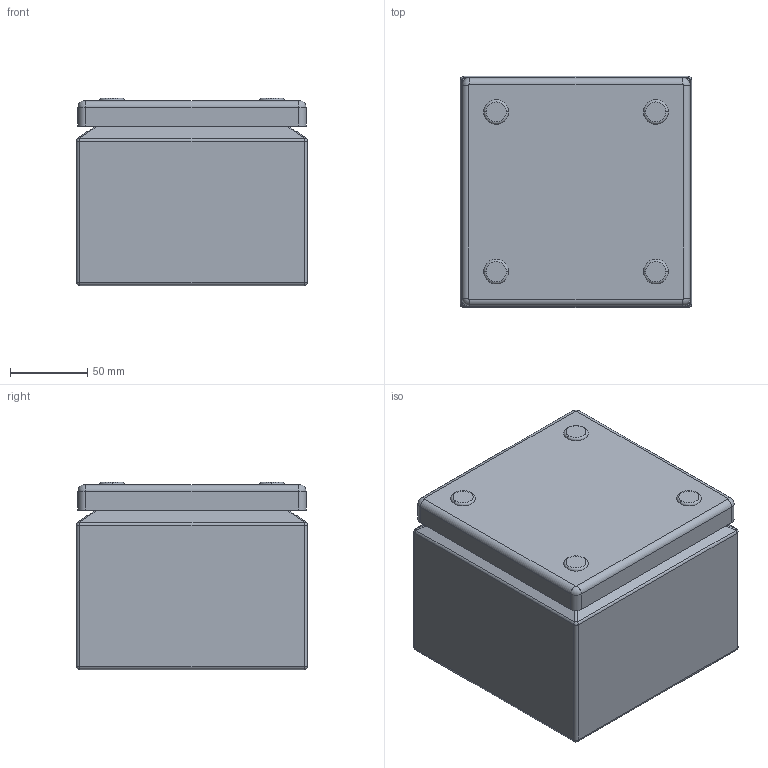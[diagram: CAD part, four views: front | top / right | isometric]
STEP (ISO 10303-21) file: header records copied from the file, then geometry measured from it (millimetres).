
FILE_DESCRIPTION (( 'STEP AP203' ), '1' );
FILE_NAME ('EGRAN1-112X.STEP', '2015-07-24T12:07:56', ( 'Admin' ), ( 'Hewlett-Packard Company' ), 'SwSTEP 2.0', 'SolidWorks 2015', '' );
FILE_SCHEMA (( 'CONFIG_CONTROL_DESIGN' ));
Length unit declared in the file: millimetre
Products named in the file (3): AR_EGRAN_inox_involucro_0150x0150x120; AR_EGRAN_inox_pannello_0150x0150; EGRAN1-112X
Assembly tree (2 placements, depth 2):
  EGRAN1-112X
    AR_EGRAN_inox_involucro_0150x0150x120
    AR_EGRAN_inox_pannello_0150x0150
Bounding box: 150 x 150 x 121.5 mm (x, y, z)
Volume: 182916.6 mm3; surface area: 260307.9 mm2
Topology: 2 solids, 2 shells, 401 faces, 1004 edges, 603 vertices
Faces by surface type: plane 182, cylinder 155, torus 40, sphere 16, bspline 8
Entity records: 12454 total; most frequent: CARTESIAN_POINT 2496, DIRECTION 2113, ORIENTED_EDGE 1976, EDGE_CURVE 988, AXIS2_PLACEMENT_3D 760, VERTEX_POINT 603, VECTOR 593, LINE 593
